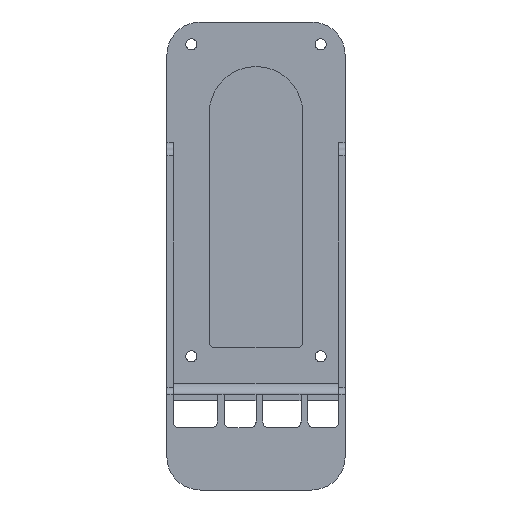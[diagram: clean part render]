
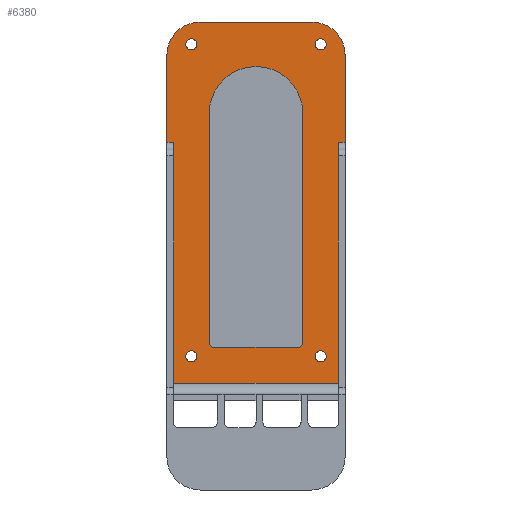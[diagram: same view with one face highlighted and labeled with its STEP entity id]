
A CAD part, front view. The second image highlights one B-rep face of the part: STEP entity #6380.
In plain terms, the highlighted planar face has unit normal (0, -1, 0).
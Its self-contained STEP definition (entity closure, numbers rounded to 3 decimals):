
#16=CARTESIAN_POINT('',(-29.,0.,70.));
#17=DIRECTION('',(0.,1.,0.));
#18=DIRECTION('',(-1.,0.,0.));
#19=AXIS2_PLACEMENT_3D('',#16,#17,#18);
#25=CARTESIAN_POINT('',(-29.,0.,70.));
#26=DIRECTION('',(0.,1.,0.));
#27=DIRECTION('',(1.,0.,0.));
#28=AXIS2_PLACEMENT_3D('',#25,#26,#27);
#33=CARTESIAN_POINT('',(-29.,0.,-70.));
#34=DIRECTION('',(0.,1.,0.));
#35=DIRECTION('',(-1.,0.,0.));
#36=AXIS2_PLACEMENT_3D('',#33,#34,#35);
#41=CARTESIAN_POINT('',(-29.,0.,-70.));
#42=DIRECTION('',(0.,1.,0.));
#43=DIRECTION('',(1.,0.,0.));
#44=AXIS2_PLACEMENT_3D('',#41,#42,#43);
#49=CARTESIAN_POINT('',(29.,0.,70.));
#50=DIRECTION('',(0.,1.,0.));
#51=DIRECTION('',(-1.,0.,0.));
#52=AXIS2_PLACEMENT_3D('',#49,#50,#51);
#57=CARTESIAN_POINT('',(29.,0.,70.));
#58=DIRECTION('',(0.,1.,0.));
#59=DIRECTION('',(1.,0.,0.));
#60=AXIS2_PLACEMENT_3D('',#57,#58,#59);
#65=CARTESIAN_POINT('',(29.,0.,-70.));
#66=DIRECTION('',(0.,1.,0.));
#67=DIRECTION('',(-1.,0.,0.));
#68=AXIS2_PLACEMENT_3D('',#65,#66,#67);
#73=CARTESIAN_POINT('',(29.,0.,-70.));
#74=DIRECTION('',(0.,1.,0.));
#75=DIRECTION('',(1.,0.,0.));
#76=AXIS2_PLACEMENT_3D('',#73,#74,#75);
#81=DIRECTION('',(0.,0.,-1.));
#82=VECTOR('',#81,102.5);
#83=CARTESIAN_POINT('',(-21.,0.,39.));
#84=LINE('',#83,#82);
#88=DIRECTION('',(-1.,0.,0.));
#89=VECTOR('',#88,37.);
#90=CARTESIAN_POINT('',(18.5,0.,-66.));
#91=LINE('',#90,#89);
#95=DIRECTION('',(0.,0.,-1.));
#96=VECTOR('',#95,102.5);
#97=CARTESIAN_POINT('',(21.,0.,39.));
#98=LINE('',#97,#96);
#102=CARTESIAN_POINT('',(0.,0.,39.));
#103=DIRECTION('',(0.,1.,0.));
#104=DIRECTION('',(-1.,0.,0.));
#105=AXIS2_PLACEMENT_3D('',#102,#103,#104);
#110=DIRECTION('',(-1.,0.,0.));
#111=VECTOR('',#110,74.);
#112=CARTESIAN_POINT('',(37.,0.,-82.));
#113=LINE('',#112,#111);
#117=DIRECTION('',(-1.,0.,0.));
#118=VECTOR('',#117,3.);
#119=CARTESIAN_POINT('',(-37.,0.,26.));
#120=LINE('',#119,#118);
#124=DIRECTION('',(0.,0.,1.));
#125=VECTOR('',#124,39.);
#126=CARTESIAN_POINT('',(-40.,0.,26.));
#127=LINE('',#126,#125);
#131=CARTESIAN_POINT('',(-25.,0.,65.));
#132=DIRECTION('',(0.,-1.,0.));
#133=DIRECTION('',(0.,0.,1.));
#134=AXIS2_PLACEMENT_3D('',#131,#132,#133);
#139=CARTESIAN_POINT('',(25.,0.,65.));
#140=DIRECTION('',(0.,-1.,0.));
#141=DIRECTION('',(1.,0.,0.));
#142=AXIS2_PLACEMENT_3D('',#139,#140,#141);
#147=DIRECTION('',(0.,0.,-1.));
#148=VECTOR('',#147,39.);
#149=CARTESIAN_POINT('',(40.,0.,65.));
#150=LINE('',#149,#148);
#154=DIRECTION('',(-1.,0.,0.));
#155=VECTOR('',#154,3.);
#156=CARTESIAN_POINT('',(40.,0.,26.));
#157=LINE('',#156,#155);
#3059=DIRECTION('',(-1.,0.,0.));
#3060=VECTOR('',#3059,50.);
#3061=CARTESIAN_POINT('',(25.,0.,80.));
#3062=LINE('',#3061,#3060);
#3155=DIRECTION('',(0.,0.,1.));
#3156=VECTOR('',#3155,108.);
#3157=CARTESIAN_POINT('',(37.,0.,-82.));
#3158=LINE('',#3157,#3156);
#3271=DIRECTION('',(0.,0.,-1.));
#3272=VECTOR('',#3271,108.);
#3273=CARTESIAN_POINT('',(-37.,0.,26.));
#3274=LINE('',#3273,#3272);
#5262=CARTESIAN_POINT('',(-18.5,0.,-63.5));
#5263=DIRECTION('',(0.,1.,0.));
#5264=DIRECTION('',(0.,0.,-1.));
#5265=AXIS2_PLACEMENT_3D('',#5262,#5263,#5264);
#5315=CARTESIAN_POINT('',(18.5,0.,-63.5));
#5316=DIRECTION('',(0.,1.,0.));
#5317=DIRECTION('',(1.,0.,0.));
#5318=AXIS2_PLACEMENT_3D('',#5315,#5316,#5317);
#5351=CARTESIAN_POINT('',(-31.5,0.,70.));
#5352=CARTESIAN_POINT('',(-26.5,0.,70.));
#5353=VERTEX_POINT('',#5351);
#5354=VERTEX_POINT('',#5352);
#5355=CARTESIAN_POINT('',(-31.5,0.,-70.));
#5356=CARTESIAN_POINT('',(-26.5,0.,-70.));
#5357=VERTEX_POINT('',#5355);
#5358=VERTEX_POINT('',#5356);
#5359=CARTESIAN_POINT('',(26.5,0.,70.));
#5360=CARTESIAN_POINT('',(31.5,0.,70.));
#5361=VERTEX_POINT('',#5359);
#5362=VERTEX_POINT('',#5360);
#5363=CARTESIAN_POINT('',(26.5,0.,-70.));
#5364=CARTESIAN_POINT('',(31.5,0.,-70.));
#5365=VERTEX_POINT('',#5363);
#5366=VERTEX_POINT('',#5364);
#5407=CARTESIAN_POINT('',(-25.,0.,80.));
#5408=CARTESIAN_POINT('',(-40.,0.,65.));
#5409=VERTEX_POINT('',#5407);
#5410=VERTEX_POINT('',#5408);
#5411=CARTESIAN_POINT('',(40.,0.,65.));
#5412=CARTESIAN_POINT('',(25.,0.,80.));
#5413=VERTEX_POINT('',#5411);
#5414=VERTEX_POINT('',#5412);
#5520=CARTESIAN_POINT('',(-37.,0.,-82.));
#5522=VERTEX_POINT('',#5520);
#5523=CARTESIAN_POINT('',(37.,0.,-82.));
#5524=VERTEX_POINT('',#5523);
#5543=CARTESIAN_POINT('',(40.,0.,26.));
#5544=CARTESIAN_POINT('',(37.,0.,26.));
#5545=VERTEX_POINT('',#5543);
#5546=VERTEX_POINT('',#5544);
#5547=CARTESIAN_POINT('',(-37.,0.,26.));
#5548=CARTESIAN_POINT('',(-40.,0.,26.));
#5549=VERTEX_POINT('',#5547);
#5550=VERTEX_POINT('',#5548);
#5571=CARTESIAN_POINT('',(21.,0.,39.));
#5572=VERTEX_POINT('',#5571);
#5573=CARTESIAN_POINT('',(-21.,0.,39.));
#5574=VERTEX_POINT('',#5573);
#5579=CARTESIAN_POINT('',(21.,0.,-63.5));
#5580=VERTEX_POINT('',#5579);
#5581=CARTESIAN_POINT('',(18.5,0.,-66.));
#5582=VERTEX_POINT('',#5581);
#5584=CARTESIAN_POINT('',(-21.,0.,-63.5));
#5586=VERTEX_POINT('',#5584);
#5589=CARTESIAN_POINT('',(-18.5,0.,-66.));
#5590=VERTEX_POINT('',#5589);
#6315=CARTESIAN_POINT('',(0.,0.,0.));
#6316=DIRECTION('',(0.,1.,0.));
#6317=DIRECTION('',(0.,0.,-1.));
#6318=AXIS2_PLACEMENT_3D('',#6315,#6316,#6317);
#6319=PLANE('',#6318);
#6321=ORIENTED_EDGE('',*,*,#6320,.T.);
#6323=ORIENTED_EDGE('',*,*,#6322,.F.);
#6325=ORIENTED_EDGE('',*,*,#6324,.T.);
#6327=ORIENTED_EDGE('',*,*,#6326,.T.);
#6329=ORIENTED_EDGE('',*,*,#6328,.F.);
#6331=ORIENTED_EDGE('',*,*,#6330,.F.);
#6333=ORIENTED_EDGE('',*,*,#6332,.F.);
#6335=ORIENTED_EDGE('',*,*,#6334,.T.);
#6337=ORIENTED_EDGE('',*,*,#6336,.T.);
#6339=ORIENTED_EDGE('',*,*,#6338,.F.);
#6340=EDGE_LOOP('',(#6321,#6323,#6325,#6327,#6329,#6331,#6333,#6335,#6337,
#6339));
#6341=FACE_OUTER_BOUND('',#6340,.F.);
#6343=ORIENTED_EDGE('',*,*,#6342,.F.);
#6345=ORIENTED_EDGE('',*,*,#6344,.F.);
#6346=EDGE_LOOP('',(#6343,#6345));
#6347=FACE_BOUND('',#6346,.F.);
#6349=ORIENTED_EDGE('',*,*,#6348,.F.);
#6351=ORIENTED_EDGE('',*,*,#6350,.F.);
#6352=EDGE_LOOP('',(#6349,#6351));
#6353=FACE_BOUND('',#6352,.F.);
#6355=ORIENTED_EDGE('',*,*,#6354,.F.);
#6357=ORIENTED_EDGE('',*,*,#6356,.F.);
#6358=EDGE_LOOP('',(#6355,#6357));
#6359=FACE_BOUND('',#6358,.F.);
#6361=ORIENTED_EDGE('',*,*,#6360,.T.);
#6363=ORIENTED_EDGE('',*,*,#6362,.F.);
#6365=ORIENTED_EDGE('',*,*,#6364,.F.);
#6367=ORIENTED_EDGE('',*,*,#6366,.F.);
#6369=ORIENTED_EDGE('',*,*,#6368,.F.);
#6371=ORIENTED_EDGE('',*,*,#6370,.F.);
#6372=EDGE_LOOP('',(#6361,#6363,#6365,#6367,#6369,#6371));
#6373=FACE_BOUND('',#6372,.F.);
#6375=ORIENTED_EDGE('',*,*,#6374,.F.);
#6377=ORIENTED_EDGE('',*,*,#6376,.F.);
#6378=EDGE_LOOP('',(#6375,#6377));
#6379=FACE_BOUND('',#6378,.F.);
#20=CIRCLE('',#19,2.5);
#29=CIRCLE('',#28,2.5);
#37=CIRCLE('',#36,2.5);
#45=CIRCLE('',#44,2.5);
#53=CIRCLE('',#52,2.5);
#61=CIRCLE('',#60,2.5);
#69=CIRCLE('',#68,2.5);
#77=CIRCLE('',#76,2.5);
#106=CIRCLE('',#105,21.);
#135=CIRCLE('',#134,15.);
#143=CIRCLE('',#142,15.);
#5266=CIRCLE('',#5265,2.5);
#5319=CIRCLE('',#5318,2.5);
#6320=EDGE_CURVE('',#5524,#5522,#113,.T.);
#6322=EDGE_CURVE('',#5549,#5522,#3274,.T.);
#6324=EDGE_CURVE('',#5549,#5550,#120,.T.);
#6326=EDGE_CURVE('',#5550,#5410,#127,.T.);
#6328=EDGE_CURVE('',#5409,#5410,#135,.T.);
#6330=EDGE_CURVE('',#5414,#5409,#3062,.T.);
#6332=EDGE_CURVE('',#5413,#5414,#143,.T.);
#6334=EDGE_CURVE('',#5413,#5545,#150,.T.);
#6336=EDGE_CURVE('',#5545,#5546,#157,.T.);
#6338=EDGE_CURVE('',#5524,#5546,#3158,.T.);
#6342=EDGE_CURVE('',#5357,#5358,#37,.T.);
#6344=EDGE_CURVE('',#5358,#5357,#45,.T.);
#6348=EDGE_CURVE('',#5361,#5362,#53,.T.);
#6350=EDGE_CURVE('',#5362,#5361,#61,.T.);
#6354=EDGE_CURVE('',#5365,#5366,#69,.T.);
#6356=EDGE_CURVE('',#5366,#5365,#77,.T.);
#6360=EDGE_CURVE('',#5574,#5586,#84,.T.);
#6362=EDGE_CURVE('',#5590,#5586,#5266,.T.);
#6364=EDGE_CURVE('',#5582,#5590,#91,.T.);
#6366=EDGE_CURVE('',#5580,#5582,#5319,.T.);
#6368=EDGE_CURVE('',#5572,#5580,#98,.T.);
#6370=EDGE_CURVE('',#5574,#5572,#106,.T.);
#6374=EDGE_CURVE('',#5353,#5354,#20,.T.);
#6376=EDGE_CURVE('',#5354,#5353,#29,.T.);
#6380=ADVANCED_FACE('',(#6341,#6347,#6353,#6359,#6373,#6379),#6319,.F.);
